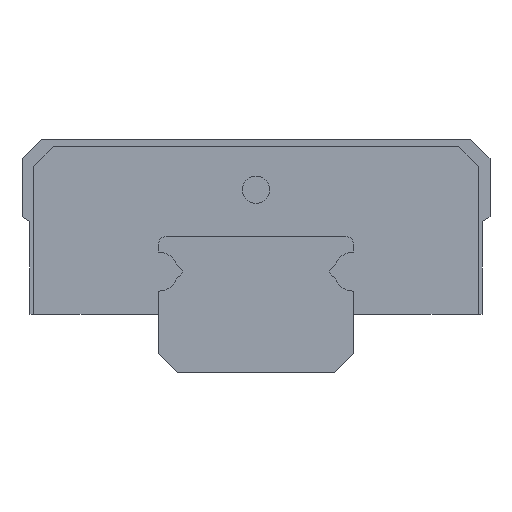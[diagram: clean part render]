
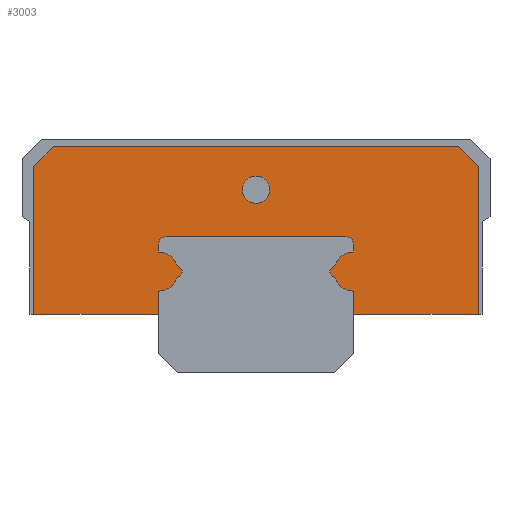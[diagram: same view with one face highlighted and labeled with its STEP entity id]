
A CAD part, left-side view. The second image highlights one B-rep face of the part: STEP entity #3003.
In plain terms, the highlighted planar face has unit normal (-1, 0, 0).
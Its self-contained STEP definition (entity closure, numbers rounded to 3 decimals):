
#1593=CARTESIAN_POINT('',(0.0,0.35,4.7));
#1594=VERTEX_POINT('',#1593);
#1595=CARTESIAN_POINT('',(0.0,0.0,4.7));
#1596=DIRECTION('',(1.0,0.0,0.0));
#1597=DIRECTION('',(0.0,-1.0,0.0));
#1598=AXIS2_PLACEMENT_3D('',#1595,#1596,#1597);
#1599=CIRCLE('',#1598,0.35);
#1600=EDGE_CURVE('',#1594,#1594,#1599,.T.);
#2214=CARTESIAN_POINT('',(0.0,5.7,1.5));
#2215=VERTEX_POINT('',#2214);
#2222=CARTESIAN_POINT('',(0.0,5.7,5.3));
#2223=VERTEX_POINT('',#2222);
#2224=CARTESIAN_POINT('',(0.0,5.7,5.3));
#2225=DIRECTION('',(0.0,0.0,-1.0));
#2226=VECTOR('',#2225,3.8);
#2227=LINE('',#2224,#2226);
#2228=EDGE_CURVE('',#2223,#2215,#2227,.T.);
#2277=CARTESIAN_POINT('',(0.0,5.2,5.8));
#2278=VERTEX_POINT('',#2277);
#2279=CARTESIAN_POINT('',(0.0,5.2,5.8));
#2280=DIRECTION('',(0.0,0.707,-0.707));
#2281=VECTOR('',#2280,0.707);
#2282=LINE('',#2279,#2281);
#2283=EDGE_CURVE('',#2278,#2223,#2282,.T.);
#2325=CARTESIAN_POINT('',(0.0,-5.2,5.8));
#2326=VERTEX_POINT('',#2325);
#2327=CARTESIAN_POINT('',(0.0,-5.2,5.8));
#2328=DIRECTION('',(0.0,1.0,0.0));
#2329=VECTOR('',#2328,10.4);
#2330=LINE('',#2327,#2329);
#2331=EDGE_CURVE('',#2326,#2278,#2330,.T.);
#2373=CARTESIAN_POINT('',(0.0,-5.7,5.3));
#2374=VERTEX_POINT('',#2373);
#2375=CARTESIAN_POINT('',(0.0,-5.7,5.3));
#2376=DIRECTION('',(0.0,0.707,0.707));
#2377=VECTOR('',#2376,0.707);
#2378=LINE('',#2375,#2377);
#2379=EDGE_CURVE('',#2374,#2326,#2378,.T.);
#2421=CARTESIAN_POINT('',(0.0,-5.7,1.5));
#2422=VERTEX_POINT('',#2421);
#2423=CARTESIAN_POINT('',(0.0,-5.7,1.5));
#2424=DIRECTION('',(0.0,0.0,1.0));
#2425=VECTOR('',#2424,3.8);
#2426=LINE('',#2423,#2425);
#2427=EDGE_CURVE('',#2422,#2374,#2426,.T.);
#2475=CARTESIAN_POINT('',(0.0,2.5,1.5));
#2476=VERTEX_POINT('',#2475);
#2483=CARTESIAN_POINT('',(0.0,5.7,1.5));
#2484=DIRECTION('',(0.0,-1.0,0.0));
#2485=VECTOR('',#2484,3.2);
#2486=LINE('',#2483,#2485);
#2487=EDGE_CURVE('',#2215,#2476,#2486,.T.);
#2510=CARTESIAN_POINT('',(0.0,2.5,2.1));
#2511=VERTEX_POINT('',#2510);
#2518=CARTESIAN_POINT('',(0.0,2.5,1.5));
#2519=DIRECTION('',(0.0,0.0,1.0));
#2520=VECTOR('',#2519,0.6);
#2521=LINE('',#2518,#2520);
#2522=EDGE_CURVE('',#2476,#2511,#2521,.T.);
#2542=CARTESIAN_POINT('',(0.0,2.022,2.452));
#2543=VERTEX_POINT('',#2542);
#2550=CARTESIAN_POINT('',(0.0,2.5,2.6));
#2551=DIRECTION('',(-1.,0.0,0.0));
#2552=DIRECTION('',(0.0,0.955,0.297));
#2553=AXIS2_PLACEMENT_3D('',#2550,#2551,#2552);
#2554=CIRCLE('',#2553,0.5);
#2555=EDGE_CURVE('',#2511,#2543,#2554,.T.);
#2575=CARTESIAN_POINT('',(0.0,2.022,2.748));
#2576=VERTEX_POINT('',#2575);
#2583=CARTESIAN_POINT('',(0.0,2.045,2.6));
#2584=DIRECTION('',(-1.0,0.0,0.0));
#2585=DIRECTION('',(0.0,0.152,-0.988));
#2586=AXIS2_PLACEMENT_3D('',#2583,#2584,#2585);
#2587=CIRCLE('',#2586,0.15);
#2588=EDGE_CURVE('',#2543,#2576,#2587,.T.);
#2608=CARTESIAN_POINT('',(0.0,2.5,3.1));
#2609=VERTEX_POINT('',#2608);
#2616=CARTESIAN_POINT('',(0.0,2.5,2.6));
#2617=DIRECTION('',(-1.0,0.0,0.0));
#2618=DIRECTION('',(0.0,0.0,-1.0));
#2619=AXIS2_PLACEMENT_3D('',#2616,#2617,#2618);
#2620=CIRCLE('',#2619,0.5);
#2621=EDGE_CURVE('',#2576,#2609,#2620,.T.);
#2640=CARTESIAN_POINT('',(0.0,2.5,3.3));
#2641=VERTEX_POINT('',#2640);
#2648=CARTESIAN_POINT('',(0.0,2.5,3.1));
#2649=DIRECTION('',(0.0,0.,1.0));
#2650=VECTOR('',#2649,0.2);
#2651=LINE('',#2648,#2650);
#2652=EDGE_CURVE('',#2609,#2641,#2651,.T.);
#2672=CARTESIAN_POINT('',(0.0,2.3,3.5));
#2673=VERTEX_POINT('',#2672);
#2680=CARTESIAN_POINT('',(0.0,2.3,3.3));
#2681=DIRECTION('',(1.0,0.0,0.0));
#2682=DIRECTION('',(0.0,1.0,0.0));
#2683=AXIS2_PLACEMENT_3D('',#2680,#2681,#2682);
#2684=CIRCLE('',#2683,0.2);
#2685=EDGE_CURVE('',#2641,#2673,#2684,.T.);
#2704=CARTESIAN_POINT('',(0.0,-2.3,3.5));
#2705=VERTEX_POINT('',#2704);
#2712=CARTESIAN_POINT('',(0.0,2.3,3.5));
#2713=DIRECTION('',(0.0,-1.0,0.0));
#2714=VECTOR('',#2713,4.6);
#2715=LINE('',#2712,#2714);
#2716=EDGE_CURVE('',#2673,#2705,#2715,.T.);
#2736=CARTESIAN_POINT('',(0.0,-2.5,3.3));
#2737=VERTEX_POINT('',#2736);
#2744=CARTESIAN_POINT('',(0.0,-2.3,3.3));
#2745=DIRECTION('',(1.0,0.0,0.0));
#2746=DIRECTION('',(0.0,0.0,1.0));
#2747=AXIS2_PLACEMENT_3D('',#2744,#2745,#2746);
#2748=CIRCLE('',#2747,0.2);
#2749=EDGE_CURVE('',#2705,#2737,#2748,.T.);
#2768=CARTESIAN_POINT('',(0.0,-2.5,3.1));
#2769=VERTEX_POINT('',#2768);
#2776=CARTESIAN_POINT('',(0.0,-2.5,3.3));
#2777=DIRECTION('',(0.0,0.,-1.0));
#2778=VECTOR('',#2777,0.2);
#2779=LINE('',#2776,#2778);
#2780=EDGE_CURVE('',#2737,#2769,#2779,.T.);
#2800=CARTESIAN_POINT('',(0.0,-2.022,2.748));
#2801=VERTEX_POINT('',#2800);
#2808=CARTESIAN_POINT('',(0.0,-2.5,2.6));
#2809=DIRECTION('',(-1.,0.0,0.0));
#2810=DIRECTION('',(0.0,-0.955,-0.297));
#2811=AXIS2_PLACEMENT_3D('',#2808,#2809,#2810);
#2812=CIRCLE('',#2811,0.5);
#2813=EDGE_CURVE('',#2769,#2801,#2812,.T.);
#2833=CARTESIAN_POINT('',(0.0,-2.022,2.452));
#2834=VERTEX_POINT('',#2833);
#2841=CARTESIAN_POINT('',(0.0,-2.045,2.6));
#2842=DIRECTION('',(-1.,0.0,0.0));
#2843=DIRECTION('',(0.0,-0.152,0.988));
#2844=AXIS2_PLACEMENT_3D('',#2841,#2842,#2843);
#2845=CIRCLE('',#2844,0.15);
#2846=EDGE_CURVE('',#2801,#2834,#2845,.T.);
#2866=CARTESIAN_POINT('',(0.0,-2.5,2.1));
#2867=VERTEX_POINT('',#2866);
#2874=CARTESIAN_POINT('',(0.0,-2.5,2.6));
#2875=DIRECTION('',(-1.0,0.0,0.0));
#2876=DIRECTION('',(0.0,0.0,1.0));
#2877=AXIS2_PLACEMENT_3D('',#2874,#2875,#2876);
#2878=CIRCLE('',#2877,0.5);
#2879=EDGE_CURVE('',#2834,#2867,#2878,.T.);
#2898=CARTESIAN_POINT('',(0.0,-2.5,1.5));
#2899=VERTEX_POINT('',#2898);
#2906=CARTESIAN_POINT('',(0.0,-2.5,2.1));
#2907=DIRECTION('',(0.0,0.0,-1.0));
#2908=VECTOR('',#2907,0.6);
#2909=LINE('',#2906,#2908);
#2910=EDGE_CURVE('',#2867,#2899,#2909,.T.);
#2932=CARTESIAN_POINT('',(0.0,-2.5,1.5));
#2933=DIRECTION('',(0.0,-1.0,0.0));
#2934=VECTOR('',#2933,3.2);
#2935=LINE('',#2932,#2934);
#2936=EDGE_CURVE('',#2899,#2422,#2935,.T.);
#2973=CARTESIAN_POINT('',(0.0,0.,3.722));
#2974=DIRECTION('',(1.0,0.0,0.0));
#2975=DIRECTION('',(0.0,0.0,-1.0));
#2976=AXIS2_PLACEMENT_3D('',#2973,#2974,#2975);
#2977=PLANE('',#2976);
#2978=ORIENTED_EDGE('',*,*,#2228,.T.);
#2979=ORIENTED_EDGE('',*,*,#2487,.T.);
#2980=ORIENTED_EDGE('',*,*,#2522,.T.);
#2981=ORIENTED_EDGE('',*,*,#2555,.T.);
#2982=ORIENTED_EDGE('',*,*,#2588,.T.);
#2983=ORIENTED_EDGE('',*,*,#2621,.T.);
#2984=ORIENTED_EDGE('',*,*,#2652,.T.);
#2985=ORIENTED_EDGE('',*,*,#2685,.T.);
#2986=ORIENTED_EDGE('',*,*,#2716,.T.);
#2987=ORIENTED_EDGE('',*,*,#2749,.T.);
#2988=ORIENTED_EDGE('',*,*,#2780,.T.);
#2989=ORIENTED_EDGE('',*,*,#2813,.T.);
#2990=ORIENTED_EDGE('',*,*,#2846,.T.);
#2991=ORIENTED_EDGE('',*,*,#2879,.T.);
#2992=ORIENTED_EDGE('',*,*,#2910,.T.);
#2993=ORIENTED_EDGE('',*,*,#2936,.T.);
#2994=ORIENTED_EDGE('',*,*,#2427,.T.);
#2995=ORIENTED_EDGE('',*,*,#2379,.T.);
#2996=ORIENTED_EDGE('',*,*,#2331,.T.);
#2997=ORIENTED_EDGE('',*,*,#2283,.T.);
#2998=EDGE_LOOP('',(#2978,#2979,#2980,#2981,#2982,#2983,#2984,#2985,#2986,#2987,#2988,#2989,#2990,#2991,#2992,#2993,#2994,#2995,#2996,#2997));
#2999=FACE_OUTER_BOUND('',#2998,.T.);
#3000=ORIENTED_EDGE('',*,*,#1600,.T.);
#3001=EDGE_LOOP('',(#3000));
#3002=FACE_BOUND('',#3001,.T.);
#3003=ADVANCED_FACE('',(#2999,#3002),#2977,.F.);
